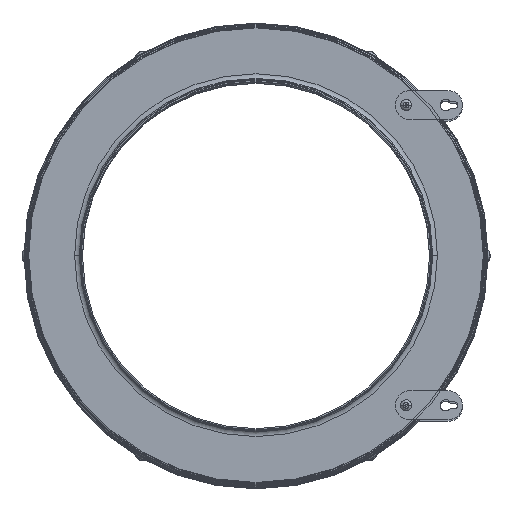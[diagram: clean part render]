
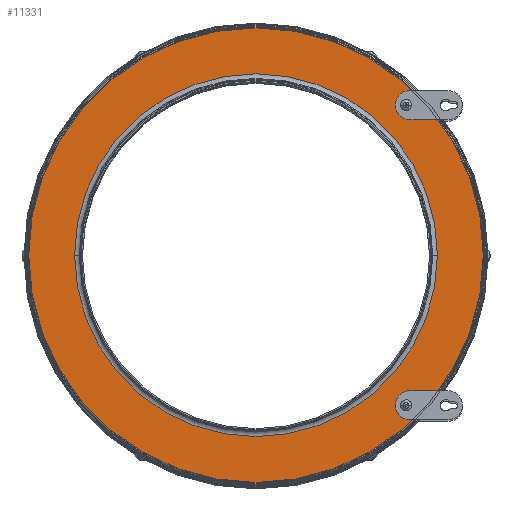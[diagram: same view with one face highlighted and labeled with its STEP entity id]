
A CAD part, top view. The second image highlights one B-rep face of the part: STEP entity #11331.
In plain terms, the highlighted planar face has unit normal (0, 0, 1).
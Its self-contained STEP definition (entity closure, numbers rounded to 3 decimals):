
#10159=CARTESIAN_POINT('',(134.35,134.35,315.2));
#10160=DIRECTION('',(0.,0.,-1.));
#10161=DIRECTION('',(-1.,0.,0.));
#10162=AXIS2_PLACEMENT_3D('',#10159,#10160,#10161);
#10164=CARTESIAN_POINT('',(134.35,134.35,315.2));
#10165=DIRECTION('',(0.,0.,-1.));
#10166=DIRECTION('',(1.,0.,0.));
#10167=AXIS2_PLACEMENT_3D('',#10164,#10165,#10166);
#10169=CARTESIAN_POINT('',(134.35,-134.35,315.2));
#10170=DIRECTION('',(0.,0.,-1.));
#10171=DIRECTION('',(-1.,0.,0.));
#10172=AXIS2_PLACEMENT_3D('',#10169,#10170,#10171);
#10174=CARTESIAN_POINT('',(134.35,-134.35,315.2));
#10175=DIRECTION('',(0.,0.,-1.));
#10176=DIRECTION('',(1.,0.,0.));
#10177=AXIS2_PLACEMENT_3D('',#10174,#10175,#10176);
#10179=CARTESIAN_POINT('',(0.,0.,315.2));
#10180=DIRECTION('',(0.,0.,-1.));
#10181=DIRECTION('',(-1.,0.,0.));
#10182=AXIS2_PLACEMENT_3D('',#10179,#10180,#10181);
#10184=CARTESIAN_POINT('',(0.,0.,315.2));
#10185=DIRECTION('',(0.,0.,-1.));
#10186=DIRECTION('',(1.,0.,0.));
#10187=AXIS2_PLACEMENT_3D('',#10184,#10185,#10186);
#10189=CARTESIAN_POINT('',(0.,0.,315.2));
#10190=DIRECTION('',(0.,0.,1.));
#10191=DIRECTION('',(-1.,0.,0.));
#10192=AXIS2_PLACEMENT_3D('',#10189,#10190,#10191);
#10194=CARTESIAN_POINT('',(0.,0.,315.2));
#10195=DIRECTION('',(0.,0.,1.));
#10196=DIRECTION('',(1.,0.,0.));
#10197=AXIS2_PLACEMENT_3D('',#10194,#10195,#10196);
#11176=CARTESIAN_POINT('',(136.95,134.35,315.2));
#11178=VERTEX_POINT('',#11176);
#11180=CARTESIAN_POINT('',(131.75,134.35,315.2));
#11182=VERTEX_POINT('',#11180);
#11263=CARTESIAN_POINT('',(203.4,0.,315.2));
#11265=VERTEX_POINT('',#11263);
#11269=CARTESIAN_POINT('',(-203.4,0.,315.2));
#11270=VERTEX_POINT('',#11269);
#11271=CARTESIAN_POINT('',(162.3,0.,315.2));
#11273=VERTEX_POINT('',#11271);
#11277=CARTESIAN_POINT('',(-162.3,0.,315.2));
#11278=VERTEX_POINT('',#11277);
#11280=CARTESIAN_POINT('',(136.95,-134.35,315.2));
#11282=VERTEX_POINT('',#11280);
#11284=CARTESIAN_POINT('',(131.75,-134.35,315.2));
#11286=VERTEX_POINT('',#11284);
#11303=CARTESIAN_POINT('',(0.,0.,315.2));
#11304=DIRECTION('',(0.,0.,-1.));
#11305=DIRECTION('',(1.,0.,0.));
#11306=AXIS2_PLACEMENT_3D('',#11303,#11304,#11305);
#11307=PLANE('',#11306);
#11309=ORIENTED_EDGE('',*,*,#11308,.F.);
#11311=ORIENTED_EDGE('',*,*,#11310,.F.);
#11312=EDGE_LOOP('',(#11309,#11311));
#11313=FACE_OUTER_BOUND('',#11312,.F.);
#11315=ORIENTED_EDGE('',*,*,#11314,.F.);
#11317=ORIENTED_EDGE('',*,*,#11316,.F.);
#11318=EDGE_LOOP('',(#11315,#11317));
#11319=FACE_BOUND('',#11318,.F.);
#11321=ORIENTED_EDGE('',*,*,#11320,.F.);
#11323=ORIENTED_EDGE('',*,*,#11322,.F.);
#11324=EDGE_LOOP('',(#11321,#11323));
#11325=FACE_BOUND('',#11324,.F.);
#11326=ORIENTED_EDGE('',*,*,#11292,.F.);
#11328=ORIENTED_EDGE('',*,*,#11327,.F.);
#11329=EDGE_LOOP('',(#11326,#11328));
#11330=FACE_BOUND('',#11329,.F.);
#11331=ADVANCED_FACE('',(#11313,#11319,#11325,#11330),#11307,.F.);
#10163=CIRCLE('',#10162,2.6);
#10168=CIRCLE('',#10167,2.6);
#10173=CIRCLE('',#10172,2.6);
#10178=CIRCLE('',#10177,2.6);
#10183=CIRCLE('',#10182,162.3);
#10188=CIRCLE('',#10187,162.3);
#10193=CIRCLE('',#10192,203.4);
#10198=CIRCLE('',#10197,203.4);
#11292=EDGE_CURVE('',#11182,#11178,#10163,.T.);
#11308=EDGE_CURVE('',#11270,#11265,#10193,.T.);
#11310=EDGE_CURVE('',#11265,#11270,#10198,.T.);
#11314=EDGE_CURVE('',#11286,#11282,#10173,.T.);
#11316=EDGE_CURVE('',#11282,#11286,#10178,.T.);
#11320=EDGE_CURVE('',#11278,#11273,#10183,.T.);
#11322=EDGE_CURVE('',#11273,#11278,#10188,.T.);
#11327=EDGE_CURVE('',#11178,#11182,#10168,.T.);
